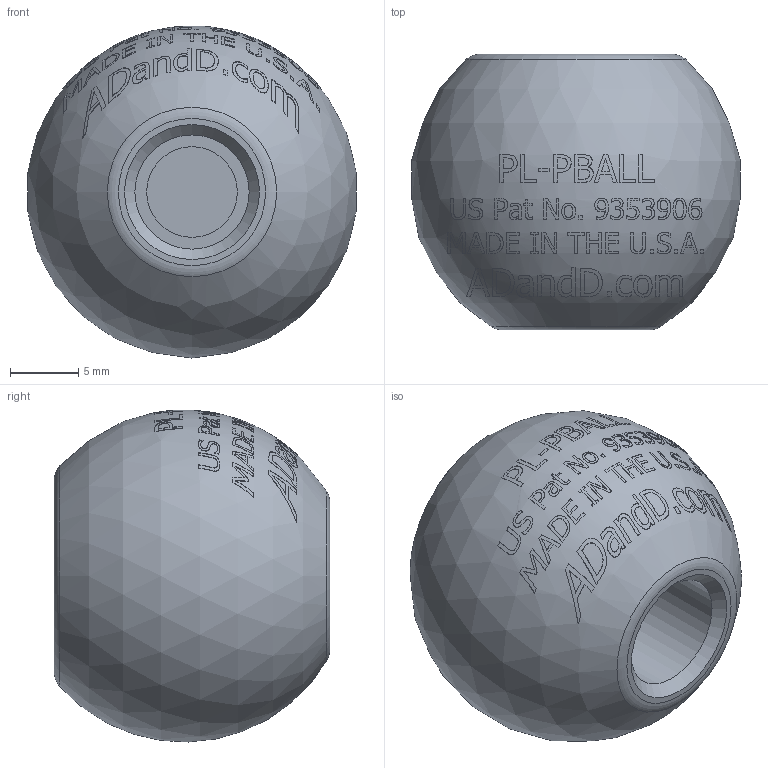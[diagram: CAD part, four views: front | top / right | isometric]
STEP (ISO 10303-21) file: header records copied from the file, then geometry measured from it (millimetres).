
FILE_DESCRIPTION(/* description */ ('POP-LINK BALL END ADAPTER'),/* implementation_level */ '2;1');
FILE_NAME(/* name */ 'C:\Users\owner\Desktop\PL-ADAPTERS_3D_stp\PL-PBALL.stp',/* time_stamp */ '2017-09-29T11:48:57-04:00',/* author */ ('owner'),/* organization */ (''),/* preprocessor_version */ 'ST-DEVELOPER v16.5',/* originating_system */ 'Autodesk Inventor 2017',/* authorisation */ '');
FILE_SCHEMA (('CONFIG_CONTROL_DESIGN'));
Length unit declared in the file: inch
Products named in the file (3): PL-PBALL; 60021; 60022
Assembly tree (2 placements, depth 2):
  PL-PBALL
    60021
    60022
Bounding box: 24.13 x 20.23 x 24.37 mm (x, y, z)
Volume: 6541.4 mm3; surface area: 2649 mm2
Topology: 2 solids, 2 shells, 748 faces, 2013 edges, 1341 vertices
Faces by surface type: plane 345, bspline 323, sphere 70, cylinder 4, cone 4, torus 2
Full cylindrical faces by diameter (mm): 6.655 x1, 8 x1, 8.382 x1, 10.508 x1
Entity records: 30355 total; most frequent: CARTESIAN_POINT 13044, ORIENTED_EDGE 3998, DIRECTION 2893, EDGE_CURVE 1999, VERTEX_POINT 1338, AXIS2_PLACEMENT_3D 1110, EDGE_LOOP 833, FACE_OUTER_BOUND 748
